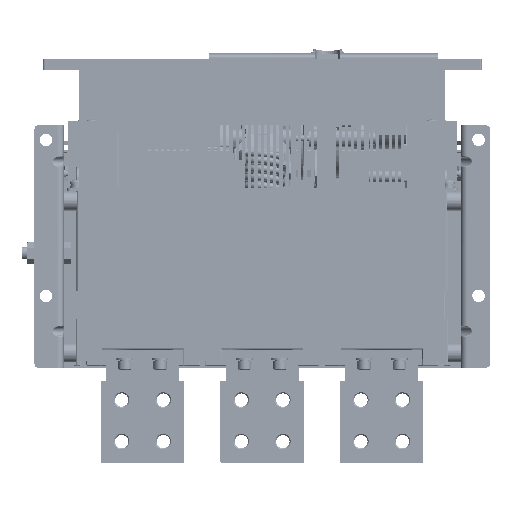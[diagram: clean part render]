
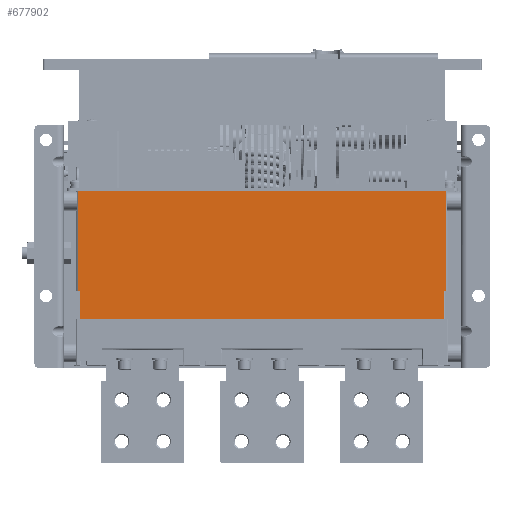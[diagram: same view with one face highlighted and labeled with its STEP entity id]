
A CAD part, front view. The second image highlights one B-rep face of the part: STEP entity #677902.
In plain terms, the highlighted planar face has unit normal (0, -1, 0) as drawn and (0, 1, 0) by its records, which use the part's own axes.
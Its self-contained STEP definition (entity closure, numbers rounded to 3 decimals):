
#4898 = DIRECTION ( 'NONE',  ( -1., 0., 0. ) ) ;
#64679 = FACE_OUTER_BOUND ( 'NONE', #129946, .T. ) ;
#73506 = DIRECTION ( 'NONE',  ( 0., 0., -1. ) ) ;
#76046 = CARTESIAN_POINT ( 'NONE',  ( 183.5, 150., -1027.5 ) ) ;
#76228 = CARTESIAN_POINT ( 'NONE',  ( 183.5, 150., -1123.5 ) ) ;
#86406 = LINE ( 'NONE', #139155, #527623 ) ;
#104486 = LINE ( 'NONE', #334258, #303852 ) ;
#117691 = AXIS2_PLACEMENT_3D ( 'NONE', #640989, #414967, #471453 ) ;
#123707 = CARTESIAN_POINT ( 'NONE',  ( 181.5, 150., -1027.5 ) ) ;
#129946 = EDGE_LOOP ( 'NONE', ( #329398, #617358, #233506, #225118, #737173, #533010, #472974, #341343 ) ) ;
#139155 = CARTESIAN_POINT ( 'NONE',  ( 183.5, 150., -1123.5 ) ) ;
#141600 = CARTESIAN_POINT ( 'NONE',  ( 181.5, 150., -1000.5 ) ) ;
#147129 = VECTOR ( 'NONE', #4898, 1000. ) ;
#186758 = VERTEX_POINT ( 'NONE', #236656 ) ;
#188807 = PLANE ( 'NONE',  #117691 ) ;
#194421 = DIRECTION ( 'NONE',  ( -1., 0., 0. ) ) ;
#197183 = EDGE_CURVE ( 'NONE', #186758, #482756, #710034, .T. ) ;
#201240 = VERTEX_POINT ( 'NONE', #386920 ) ;
#222161 = VECTOR ( 'NONE', #473992, 1000. ) ;
#225118 = ORIENTED_EDGE ( 'NONE', *, *, #657716, .F. ) ;
#233506 = ORIENTED_EDGE ( 'NONE', *, *, #505862, .F. ) ;
#236656 = CARTESIAN_POINT ( 'NONE',  ( -170.5, 150., -1027.5 ) ) ;
#273956 = CARTESIAN_POINT ( 'NONE',  ( 183.5, 150., -1123.5 ) ) ;
#289028 = VECTOR ( 'NONE', #709747, 1000. ) ;
#303852 = VECTOR ( 'NONE', #609354, 1000. ) ;
#329398 = ORIENTED_EDGE ( 'NONE', *, *, #411564, .F. ) ;
#330741 = VERTEX_POINT ( 'NONE', #76046 ) ;
#334258 = CARTESIAN_POINT ( 'NONE',  ( -168.5, 150., -1027.5 ) ) ;
#341343 = ORIENTED_EDGE ( 'NONE', *, *, #197183, .F. ) ;
#359812 = CARTESIAN_POINT ( 'NONE',  ( -170.5, 150., -1027.5 ) ) ;
#369010 = DIRECTION ( 'NONE',  ( 0., 0., 1. ) ) ;
#378939 = CARTESIAN_POINT ( 'NONE',  ( -168.5, 150., -1027.5 ) ) ;
#382672 = DIRECTION ( 'NONE',  ( 0., 0., 1. ) ) ;
#386920 = CARTESIAN_POINT ( 'NONE',  ( 181.5, 150., -1027.5 ) ) ;
#391319 = VERTEX_POINT ( 'NONE', #601153 ) ;
#402644 = LINE ( 'NONE', #123707, #222161 ) ;
#411564 = EDGE_CURVE ( 'NONE', #418266, #186758, #104486, .T. ) ;
#414967 = DIRECTION ( 'NONE',  ( 0., 1., 0. ) ) ;
#418266 = VERTEX_POINT ( 'NONE', #539088 ) ;
#426358 = EDGE_CURVE ( 'NONE', #601892, #482756, #709064, .T. ) ;
#427992 = LINE ( 'NONE', #141600, #690675 ) ;
#432593 = VECTOR ( 'NONE', #382672, 1000. ) ;
#438118 = CARTESIAN_POINT ( 'NONE',  ( -170.5, 150., -1123.5 ) ) ;
#449319 = VECTOR ( 'NONE', #73506, 1000. ) ;
#471453 = DIRECTION ( 'NONE',  ( 1., 0., 0. ) ) ;
#472974 = ORIENTED_EDGE ( 'NONE', *, *, #426358, .T. ) ;
#473992 = DIRECTION ( 'NONE',  ( 1., 0., 0. ) ) ;
#480002 = CARTESIAN_POINT ( 'NONE',  ( 181.5, 150., -1027.5 ) ) ;
#482756 = VERTEX_POINT ( 'NONE', #438118 ) ;
#505862 = EDGE_CURVE ( 'NONE', #532041, #391319, #427992, .T. ) ;
#527623 = VECTOR ( 'NONE', #369010, 1000. ) ;
#532041 = VERTEX_POINT ( 'NONE', #592373 ) ;
#533010 = ORIENTED_EDGE ( 'NONE', *, *, #693727, .F. ) ;
#539088 = CARTESIAN_POINT ( 'NONE',  ( -168.5, 150., -1027.5 ) ) ;
#592373 = CARTESIAN_POINT ( 'NONE',  ( 181.5, 150., -1000.5 ) ) ;
#601153 = CARTESIAN_POINT ( 'NONE',  ( -168.5, 150., -1000.5 ) ) ;
#601892 = VERTEX_POINT ( 'NONE', #273956 ) ;
#604062 = LINE ( 'NONE', #480002, #289028 ) ;
#609354 = DIRECTION ( 'NONE',  ( -1., 0., 0. ) ) ;
#617358 = ORIENTED_EDGE ( 'NONE', *, *, #647343, .T. ) ;
#640989 = CARTESIAN_POINT ( 'NONE',  ( -251., 150., -1000. ) ) ;
#647343 = EDGE_CURVE ( 'NONE', #418266, #391319, #665214, .T. ) ;
#657716 = EDGE_CURVE ( 'NONE', #201240, #532041, #604062, .T. ) ;
#665214 = LINE ( 'NONE', #378939, #432593 ) ;
#677902 = ADVANCED_FACE ( 'NONE', ( #64679 ), #188807, .T. ) ;
#690675 = VECTOR ( 'NONE', #194421, 1000. ) ;
#693727 = EDGE_CURVE ( 'NONE', #601892, #330741, #86406, .T. ) ;
#709064 = LINE ( 'NONE', #76228, #147129 ) ;
#709747 = DIRECTION ( 'NONE',  ( 0., 0., 1. ) ) ;
#710034 = LINE ( 'NONE', #359812, #449319 ) ;
#736842 = EDGE_CURVE ( 'NONE', #201240, #330741, #402644, .T. ) ;
#737173 = ORIENTED_EDGE ( 'NONE', *, *, #736842, .T. ) ;
